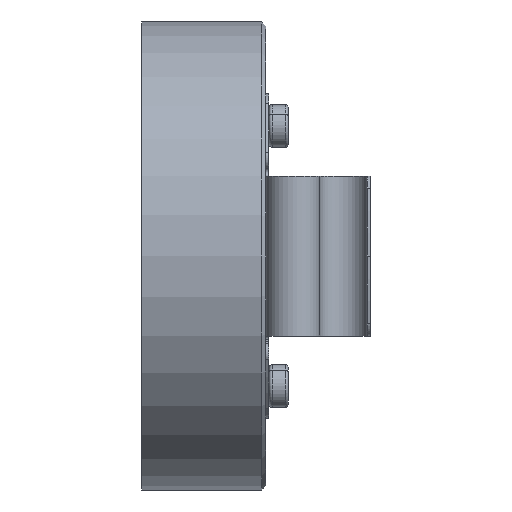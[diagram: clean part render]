
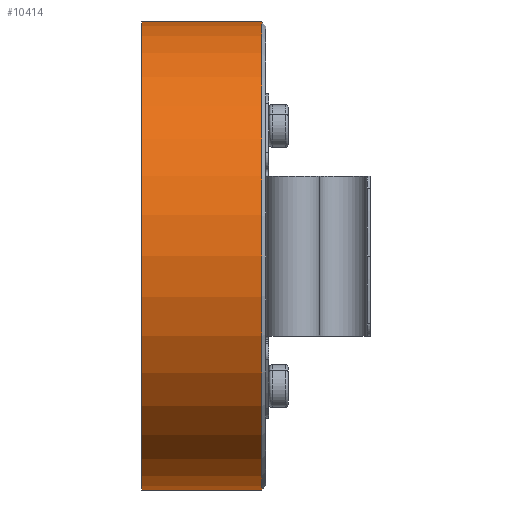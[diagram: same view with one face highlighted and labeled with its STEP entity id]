
A CAD part, left-side view. The second image highlights one B-rep face of the part: STEP entity #10414.
In plain terms, the highlighted cylindrical face has radius 29.25 mm (diameter 58.5 mm), a partial arc.
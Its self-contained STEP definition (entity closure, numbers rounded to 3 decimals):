
#193 = VECTOR ( 'NONE', #20310, 1000. ) ;
#743 = AXIS2_PLACEMENT_3D ( 'NONE', #1593, #46276, #21087 ) ;
#1593 = CARTESIAN_POINT ( 'NONE',  ( 0., 32.8, 0. ) ) ;
#3562 = CARTESIAN_POINT ( 'NONE',  ( 0., 15.5, 29.25 ) ) ;
#4472 = EDGE_CURVE ( 'NONE', #32662, #44781, #59763, .T. ) ;
#6382 = ORIENTED_EDGE ( 'NONE', *, *, #12792, .T. ) ;
#6438 = CIRCLE ( 'NONE', #52155, 29.25 ) ;
#7922 = CARTESIAN_POINT ( 'NONE',  ( 0., 0.5, -29.25 ) ) ;
#8177 = CYLINDRICAL_SURFACE ( 'NONE', #743, 29.25 ) ;
#8904 = VECTOR ( 'NONE', #36674, 1000. ) ;
#9173 = EDGE_CURVE ( 'NONE', #32662, #49310, #44027, .T. ) ;
#10414 = ADVANCED_FACE ( 'NONE', ( #49920 ), #8177, .T. ) ;
#10717 = AXIS2_PLACEMENT_3D ( 'NONE', #39245, #64153, #34534 ) ;
#11054 = EDGE_CURVE ( 'NONE', #44781, #17389, #6438, .T. ) ;
#11098 = CARTESIAN_POINT ( 'NONE',  ( 0., 32.8, 29.25 ) ) ;
#12792 = EDGE_CURVE ( 'NONE', #49310, #17389, #21348, .T. ) ;
#17389 = VERTEX_POINT ( 'NONE', #3562 ) ;
#18018 = EDGE_LOOP ( 'NONE', ( #21565, #35481, #6382, #55642 ) ) ;
#20310 = DIRECTION ( 'NONE',  ( 0., 1., 0. ) ) ;
#21087 = DIRECTION ( 'NONE',  ( 0., 0., 1. ) ) ;
#21348 = LINE ( 'NONE', #11098, #8904 ) ;
#21565 = ORIENTED_EDGE ( 'NONE', *, *, #4472, .F. ) ;
#27925 = DIRECTION ( 'NONE',  ( 0., 1., 0. ) ) ;
#32662 = VERTEX_POINT ( 'NONE', #7922 ) ;
#34534 = DIRECTION ( 'NONE',  ( 0., 0., -1. ) ) ;
#35270 = CARTESIAN_POINT ( 'NONE',  ( 0., 32.8, -29.25 ) ) ;
#35481 = ORIENTED_EDGE ( 'NONE', *, *, #9173, .T. ) ;
#36674 = DIRECTION ( 'NONE',  ( 0., 1., 0. ) ) ;
#37437 = CARTESIAN_POINT ( 'NONE',  ( 0., 15.5, 0. ) ) ;
#39245 = CARTESIAN_POINT ( 'NONE',  ( 0., 0.5, 0. ) ) ;
#42183 = CARTESIAN_POINT ( 'NONE',  ( 0., 15.5, -29.25 ) ) ;
#42561 = DIRECTION ( 'NONE',  ( 0., 0., 1. ) ) ;
#44027 = CIRCLE ( 'NONE', #10717, 29.25 ) ;
#44781 = VERTEX_POINT ( 'NONE', #42183 ) ;
#46276 = DIRECTION ( 'NONE',  ( 0., 1., 0. ) ) ;
#49310 = VERTEX_POINT ( 'NONE', #61311 ) ;
#49920 = FACE_OUTER_BOUND ( 'NONE', #18018, .T. ) ;
#52155 = AXIS2_PLACEMENT_3D ( 'NONE', #37437, #27925, #42561 ) ;
#55642 = ORIENTED_EDGE ( 'NONE', *, *, #11054, .F. ) ;
#59763 = LINE ( 'NONE', #35270, #193 ) ;
#61311 = CARTESIAN_POINT ( 'NONE',  ( 0., 0.5, 29.25 ) ) ;
#64153 = DIRECTION ( 'NONE',  ( 0., 1., 0. ) ) ;
